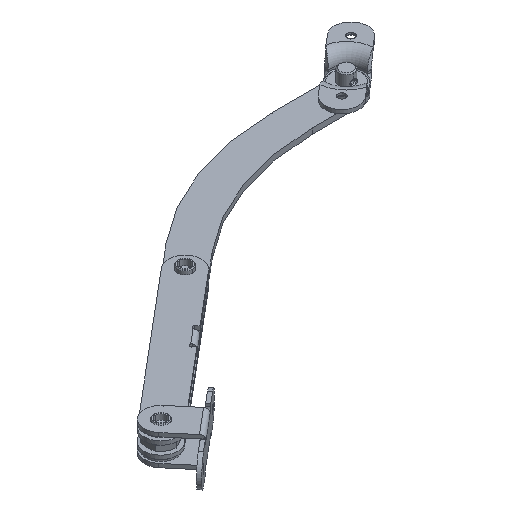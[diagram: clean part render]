
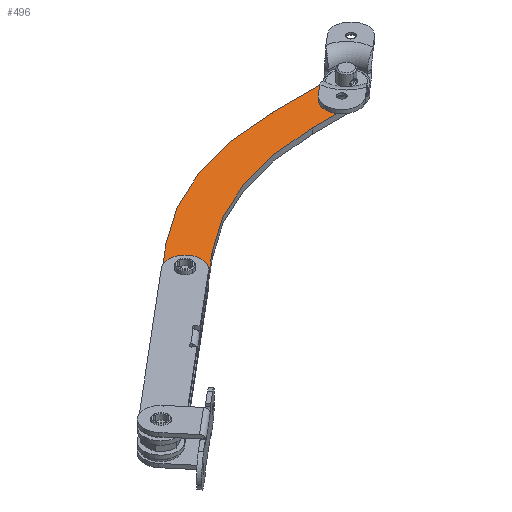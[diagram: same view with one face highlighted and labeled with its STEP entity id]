
A CAD part, isometric view. The second image highlights one B-rep face of the part: STEP entity #496.
In plain terms, the highlighted planar face has unit normal (0, 0, 1).
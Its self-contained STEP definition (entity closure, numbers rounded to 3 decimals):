
#88=CARTESIAN_POINT('',(-109.248,-56.145,1.5));
#89=DIRECTION('',(0.,0.,-1.));
#90=DIRECTION('',(0.,1.,0.));
#91=AXIS2_PLACEMENT_3D('',#88,#89,#90);
#93=CARTESIAN_POINT('',(-109.248,-56.145,1.5));
#94=DIRECTION('',(0.,0.,-1.));
#95=DIRECTION('',(0.,-1.,0.));
#96=AXIS2_PLACEMENT_3D('',#93,#94,#95);
#98=CARTESIAN_POINT('',(36.343,0.,1.5));
#99=DIRECTION('',(0.,0.,1.));
#100=DIRECTION('',(0.766,0.643,0.));
#101=AXIS2_PLACEMENT_3D('',#98,#99,#100);
#103=CARTESIAN_POINT('',(36.343,0.,1.5));
#104=DIRECTION('',(0.,0.,1.));
#105=DIRECTION('',(-0.766,-0.643,0.));
#106=AXIS2_PLACEMENT_3D('',#103,#104,#105);
#108=CARTESIAN_POINT('',(-93.927,-43.289,1.5));
#109=DIRECTION('',(0.,0.,1.));
#110=DIRECTION('',(0.766,0.643,0.));
#111=AXIS2_PLACEMENT_3D('',#108,#109,#110);
#113=CARTESIAN_POINT('',(-93.927,-43.289,1.5));
#114=DIRECTION('',(0.,0.,1.));
#115=DIRECTION('',(-0.766,-0.643,0.));
#116=AXIS2_PLACEMENT_3D('',#113,#114,#115);
#118=CARTESIAN_POINT('',(-114.064,-70.629,1.5));
#119=DIRECTION('',(0.,0.,1.));
#120=DIRECTION('',(-0.766,-0.643,0.));
#121=AXIS2_PLACEMENT_3D('',#118,#119,#120);
#123=DIRECTION('',(0.766,0.643,0.));
#124=VECTOR('',#123,7.);
#125=CARTESIAN_POINT('',(-121.601,-75.649,1.5));
#126=LINE('',#125,#124);
#127=CARTESIAN_POINT('',(-122.887,-74.116,1.5));
#128=DIRECTION('',(0.,0.,1.));
#129=DIRECTION('',(-1.,0.,0.));
#130=AXIS2_PLACEMENT_3D('',#127,#128,#129);
#132=DIRECTION('',(0.,-1.,0.));
#133=VECTOR('',#132,16.598);
#134=CARTESIAN_POINT('',(-124.887,-57.519,1.5));
#135=LINE('',#134,#133);
#136=DIRECTION('',(-0.766,-0.643,0.));
#137=VECTOR('',#136,52.529);
#138=CARTESIAN_POINT('',(-84.647,-23.754,1.5));
#139=LINE('',#138,#137);
#140=CARTESIAN_POINT('',(5.343,-131.,1.5));
#141=DIRECTION('',(0.,0.,1.));
#142=DIRECTION('',(0.,1.,0.));
#143=AXIS2_PLACEMENT_3D('',#140,#141,#142);
#145=DIRECTION('',(-1.,0.,0.));
#146=VECTOR('',#145,31.);
#147=CARTESIAN_POINT('',(36.343,9.,1.5));
#148=LINE('',#147,#146);
#149=CARTESIAN_POINT('',(36.343,0.,1.5));
#150=DIRECTION('',(0.,0.,-1.));
#151=DIRECTION('',(0.,1.,0.));
#152=AXIS2_PLACEMENT_3D('',#149,#150,#151);
#154=DIRECTION('',(1.,0.,0.));
#155=VECTOR('',#154,27.36);
#156=CARTESIAN_POINT('',(8.983,-9.,1.5));
#157=LINE('',#156,#155);
#158=CARTESIAN_POINT('',(8.983,-141.,1.5));
#159=DIRECTION('',(0.,0.,-1.));
#160=DIRECTION('',(-0.643,0.766,0.));
#161=AXIS2_PLACEMENT_3D('',#158,#159,#160);
#163=DIRECTION('',(0.766,0.643,0.));
#164=VECTOR('',#163,49.026);
#165=CARTESIAN_POINT('',(-113.421,-71.396,1.5));
#166=LINE('',#165,#164);
#238=CARTESIAN_POINT('',(-115.596,-71.915,1.5));
#239=DIRECTION('',(0.,0.,-1.));
#240=DIRECTION('',(-0.643,0.766,0.));
#241=AXIS2_PLACEMENT_3D('',#238,#239,#240);
#301=CARTESIAN_POINT('',(5.343,9.,1.5));
#302=CARTESIAN_POINT('',(-84.647,-23.754,1.5));
#303=VERTEX_POINT('',#301);
#304=VERTEX_POINT('',#302);
#305=CARTESIAN_POINT('',(-124.887,-57.519,1.5));
#306=VERTEX_POINT('',#305);
#307=CARTESIAN_POINT('',(-124.887,-74.116,1.5));
#308=VERTEX_POINT('',#307);
#309=CARTESIAN_POINT('',(-121.601,-75.649,1.5));
#310=VERTEX_POINT('',#309);
#311=CARTESIAN_POINT('',(-75.865,-39.882,1.5));
#312=CARTESIAN_POINT('',(8.983,-9.,1.5));
#313=VERTEX_POINT('',#311);
#314=VERTEX_POINT('',#312);
#315=CARTESIAN_POINT('',(36.343,9.,1.5));
#316=CARTESIAN_POINT('',(36.343,-9.,1.5));
#317=VERTEX_POINT('',#315);
#318=VERTEX_POINT('',#316);
#335=CARTESIAN_POINT('',(39.446,2.603,1.5));
#336=CARTESIAN_POINT('',(33.241,-2.603,1.5));
#337=VERTEX_POINT('',#335);
#338=VERTEX_POINT('',#336);
#339=CARTESIAN_POINT('',(-90.824,-40.686,1.5));
#340=CARTESIAN_POINT('',(-97.029,-45.892,1.5));
#341=VERTEX_POINT('',#339);
#342=VERTEX_POINT('',#340);
#344=CARTESIAN_POINT('',(-116.239,-71.149,1.5));
#346=VERTEX_POINT('',#344);
#351=CARTESIAN_POINT('',(-114.83,-71.272,1.5));
#352=VERTEX_POINT('',#351);
#353=CARTESIAN_POINT('',(-113.421,-71.396,1.5));
#354=VERTEX_POINT('',#353);
#355=CARTESIAN_POINT('',(-109.248,-53.545,1.5));
#356=CARTESIAN_POINT('',(-109.248,-58.745,1.5));
#357=VERTEX_POINT('',#355);
#358=VERTEX_POINT('',#356);
#449=CARTESIAN_POINT('',(0.,0.,1.5));
#450=DIRECTION('',(0.,0.,1.));
#451=DIRECTION('',(1.,0.,0.));
#452=AXIS2_PLACEMENT_3D('',#449,#450,#451);
#453=PLANE('',#452);
#455=ORIENTED_EDGE('',*,*,#454,.F.);
#457=ORIENTED_EDGE('',*,*,#456,.F.);
#459=ORIENTED_EDGE('',*,*,#458,.F.);
#461=ORIENTED_EDGE('',*,*,#460,.F.);
#463=ORIENTED_EDGE('',*,*,#462,.F.);
#465=ORIENTED_EDGE('',*,*,#464,.F.);
#467=ORIENTED_EDGE('',*,*,#466,.F.);
#469=ORIENTED_EDGE('',*,*,#468,.F.);
#471=ORIENTED_EDGE('',*,*,#470,.T.);
#473=ORIENTED_EDGE('',*,*,#472,.F.);
#475=ORIENTED_EDGE('',*,*,#474,.F.);
#477=ORIENTED_EDGE('',*,*,#476,.F.);
#478=EDGE_LOOP('',(#455,#457,#459,#461,#463,#465,#467,#469,#471,#473,#475,
#477));
#479=FACE_OUTER_BOUND('',#478,.F.);
#481=ORIENTED_EDGE('',*,*,#480,.F.);
#483=ORIENTED_EDGE('',*,*,#482,.F.);
#484=EDGE_LOOP('',(#481,#483));
#485=FACE_BOUND('',#484,.F.);
#486=ORIENTED_EDGE('',*,*,#429,.T.);
#487=ORIENTED_EDGE('',*,*,#443,.T.);
#488=EDGE_LOOP('',(#486,#487));
#489=FACE_BOUND('',#488,.F.);
#491=ORIENTED_EDGE('',*,*,#490,.T.);
#493=ORIENTED_EDGE('',*,*,#492,.T.);
#494=EDGE_LOOP('',(#491,#493));
#495=FACE_BOUND('',#494,.F.);
#496=ADVANCED_FACE('',(#479,#485,#489,#495),#453,.T.);
#92=CIRCLE('',#91,2.6);
#97=CIRCLE('',#96,2.6);
#102=CIRCLE('',#101,4.05);
#107=CIRCLE('',#106,4.05);
#112=CIRCLE('',#111,4.05);
#117=CIRCLE('',#116,4.05);
#122=CIRCLE('',#121,1.);
#131=CIRCLE('',#130,2.);
#144=CIRCLE('',#143,140.);
#153=CIRCLE('',#152,9.);
#162=CIRCLE('',#161,132.);
#242=CIRCLE('',#241,1.);
#429=EDGE_CURVE('',#337,#338,#102,.T.);
#443=EDGE_CURVE('',#338,#337,#107,.T.);
#454=EDGE_CURVE('',#352,#354,#122,.T.);
#456=EDGE_CURVE('',#346,#352,#242,.T.);
#458=EDGE_CURVE('',#310,#346,#126,.T.);
#460=EDGE_CURVE('',#308,#310,#131,.T.);
#462=EDGE_CURVE('',#306,#308,#135,.T.);
#464=EDGE_CURVE('',#304,#306,#139,.T.);
#466=EDGE_CURVE('',#303,#304,#144,.T.);
#468=EDGE_CURVE('',#317,#303,#148,.T.);
#470=EDGE_CURVE('',#317,#318,#153,.T.);
#472=EDGE_CURVE('',#314,#318,#157,.T.);
#474=EDGE_CURVE('',#313,#314,#162,.T.);
#476=EDGE_CURVE('',#354,#313,#166,.T.);
#480=EDGE_CURVE('',#357,#358,#92,.T.);
#482=EDGE_CURVE('',#358,#357,#97,.T.);
#490=EDGE_CURVE('',#341,#342,#112,.T.);
#492=EDGE_CURVE('',#342,#341,#117,.T.);
